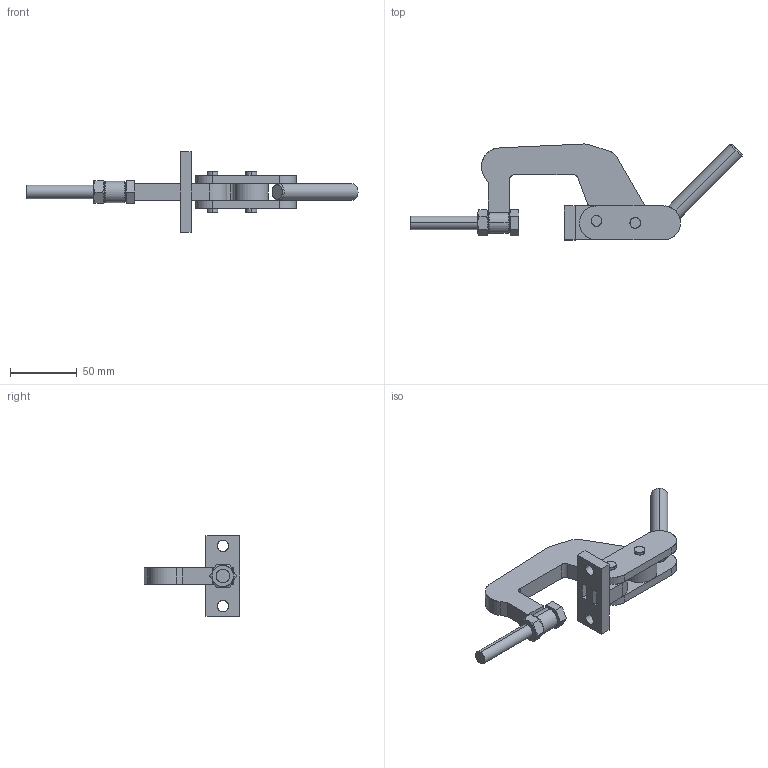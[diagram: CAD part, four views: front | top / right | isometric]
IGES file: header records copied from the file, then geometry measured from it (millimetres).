
Start section: SolidWorks IGES file using analytic representation for surfaces
Global section: file name: C:\Projetos\Grampos\KF-035 34\KF-035 34.IGS; native system: SolidWorks 2012; preprocessor: SolidWorks 2012; author: Ricardo; date: 121029.170115; units: millimetre
Bounding box: 248.06 x 71.68 x 60 mm (x, y, z)
Surface area: 41355.7 mm2 (no closed solid volume)
Topology: 0 solids, 0 shells, 130 faces, 2002 edges, 2002 vertices
Faces by surface type: bspline 67, revolution 63
